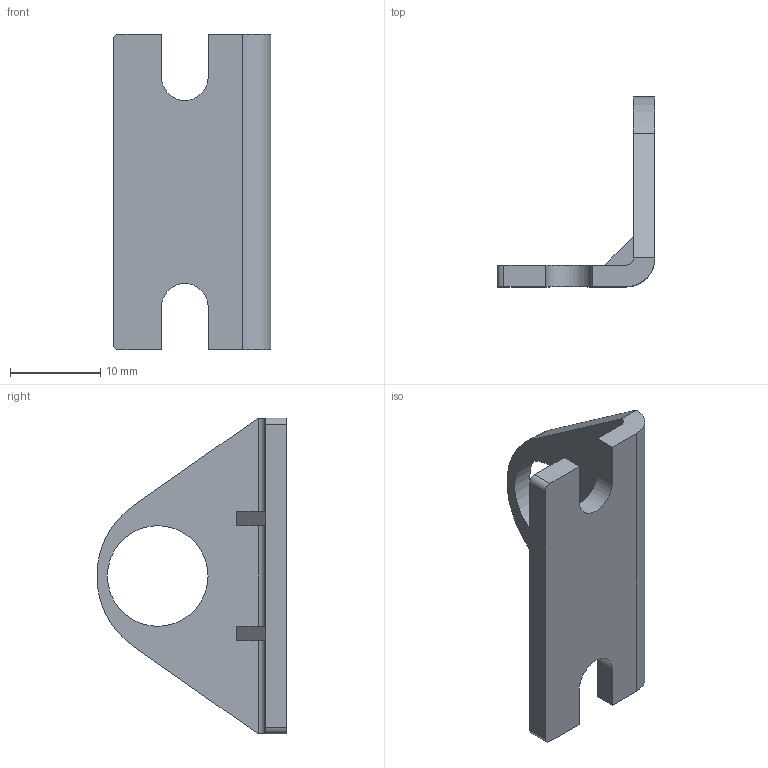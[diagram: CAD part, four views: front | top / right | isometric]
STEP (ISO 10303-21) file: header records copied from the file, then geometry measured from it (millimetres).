
FILE_DESCRIPTION((''),'2;1');
FILE_NAME('M117003','2020-06-22T16:33:28',('MeFernandez'),('ASCO Numatics'),'CREO PARAMETRIC BY PTC INC, 2018190','CREO PARAMETRIC BY PTC INC, 2018190','');
FILE_SCHEMA(('CONFIG_CONTROL_DESIGN'));
Length unit declared in the file: inch
Products named in the file (1): M117003
Bounding box: 17.46 x 21 x 34.92 mm (x, y, z)
Volume: 2000.1 mm3; surface area: 2112.4 mm2
Topology: 1 solids, 1 shells, 32 faces, 86 edges, 56 vertices
Faces by surface type: plane 21, cylinder 11
Entity records: 1044 total; most frequent: CARTESIAN_POINT 174, DIRECTION 172, ORIENTED_EDGE 172, EDGE_CURVE 86, VECTOR 64, LINE 64, VERTEX_POINT 56, AXIS2_PLACEMENT_3D 54
